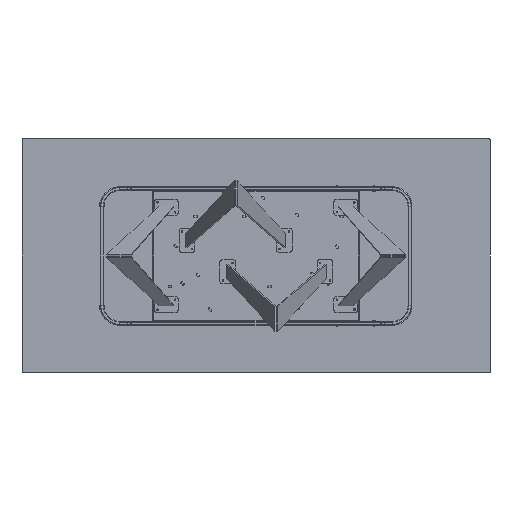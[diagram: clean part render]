
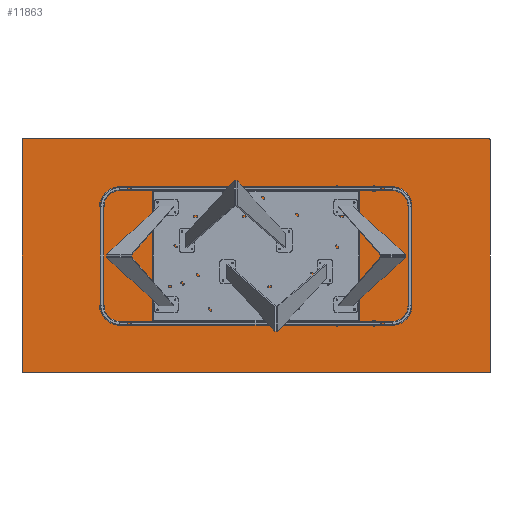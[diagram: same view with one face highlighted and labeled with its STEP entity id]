
A CAD part, front view. The second image highlights one B-rep face of the part: STEP entity #11863.
In plain terms, the highlighted planar face has unit normal (0, -1, 0).
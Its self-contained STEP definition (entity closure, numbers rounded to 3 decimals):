
#635 = CARTESIAN_POINT ( 'NONE',  ( -1200., 0., -595. ) ) ;
#771 = AXIS2_PLACEMENT_3D ( 'NONE', #8206, #1848, #14440 ) ;
#931 = ORIENTED_EDGE ( 'NONE', *, *, #15888, .F. ) ;
#1188 = CARTESIAN_POINT ( 'NONE',  ( 1200., 0., -595. ) ) ;
#1250 = DIRECTION ( 'NONE',  ( 0., -1., 0. ) ) ;
#1674 = ORIENTED_EDGE ( 'NONE', *, *, #13160, .F. ) ;
#1697 = ORIENTED_EDGE ( 'NONE', *, *, #16505, .F. ) ;
#1848 = DIRECTION ( 'NONE',  ( 0., -1., 0. ) ) ;
#2313 = EDGE_CURVE ( 'NONE', #4281, #13110, #16588, .T. ) ;
#2363 = VECTOR ( 'NONE', #4722, 1000. ) ;
#3006 = CARTESIAN_POINT ( 'NONE',  ( 0., 0., 0. ) ) ;
#3324 = VERTEX_POINT ( 'NONE', #8677 ) ;
#3383 = CARTESIAN_POINT ( 'NONE',  ( -1200., 0., 595. ) ) ;
#3811 = AXIS2_PLACEMENT_3D ( 'NONE', #3006, #8855, #7215 ) ;
#4281 = VERTEX_POINT ( 'NONE', #635 ) ;
#4381 = ORIENTED_EDGE ( 'NONE', *, *, #2313, .T. ) ;
#4722 = DIRECTION ( 'NONE',  ( 1., 0., 0. ) ) ;
#4966 = DIRECTION ( 'NONE',  ( 0., 0., 1. ) ) ;
#5014 = CIRCLE ( 'NONE', #8637, 5. ) ;
#5038 = ORIENTED_EDGE ( 'NONE', *, *, #14951, .T. ) ;
#5624 = CARTESIAN_POINT ( 'NONE',  ( -1195., 0., -600. ) ) ;
#5864 = CARTESIAN_POINT ( 'NONE',  ( -1200., 0., -600. ) ) ;
#6027 = VERTEX_POINT ( 'NONE', #3383 ) ;
#6441 = LINE ( 'NONE', #16161, #10238 ) ;
#6461 = DIRECTION ( 'NONE',  ( 0., 0., 1. ) ) ;
#6846 = VERTEX_POINT ( 'NONE', #12253 ) ;
#7215 = DIRECTION ( 'NONE',  ( 0., 0., 1. ) ) ;
#7288 = EDGE_CURVE ( 'NONE', #19939, #3324, #5014, .T. ) ;
#7340 = ORIENTED_EDGE ( 'NONE', *, *, #7485, .T. ) ;
#7485 = EDGE_CURVE ( 'NONE', #6846, #6027, #13198, .T. ) ;
#7596 = CARTESIAN_POINT ( 'NONE',  ( 1195., 0., 595. ) ) ;
#7699 = DIRECTION ( 'NONE',  ( 0., 0., 1. ) ) ;
#7753 = DIRECTION ( 'NONE',  ( 0., -1., 0. ) ) ;
#8206 = CARTESIAN_POINT ( 'NONE',  ( -1195., 0., 595. ) ) ;
#8637 = AXIS2_PLACEMENT_3D ( 'NONE', #7596, #1250, #7699 ) ;
#8677 = CARTESIAN_POINT ( 'NONE',  ( 1195., 0., 600. ) ) ;
#8855 = DIRECTION ( 'NONE',  ( 0., 1., 0. ) ) ;
#9159 = PLANE ( 'NONE',  #3811 ) ;
#9409 = DIRECTION ( 'NONE',  ( 0., 0., -1. ) ) ;
#10238 = VECTOR ( 'NONE', #11355, 1000. ) ;
#10356 = VECTOR ( 'NONE', #10383, 1000. ) ;
#10383 = DIRECTION ( 'NONE',  ( 0., 0., 1. ) ) ;
#11355 = DIRECTION ( 'NONE',  ( -1., 0., 0. ) ) ;
#11863 = ADVANCED_FACE ( 'NONE', ( #13854 ), #9159, .F. ) ;
#12253 = CARTESIAN_POINT ( 'NONE',  ( -1195., 0., 600. ) ) ;
#12497 = CARTESIAN_POINT ( 'NONE',  ( -1200., 0., 600. ) ) ;
#12593 = CARTESIAN_POINT ( 'NONE',  ( -1195., 0., -595. ) ) ;
#13110 = VERTEX_POINT ( 'NONE', #5624 ) ;
#13160 = EDGE_CURVE ( 'NONE', #19939, #13459, #15760, .T. ) ;
#13198 = CIRCLE ( 'NONE', #771, 5. ) ;
#13294 = AXIS2_PLACEMENT_3D ( 'NONE', #12593, #17330, #6461 ) ;
#13459 = VERTEX_POINT ( 'NONE', #1188 ) ;
#13746 = LINE ( 'NONE', #5864, #10356 ) ;
#13774 = ORIENTED_EDGE ( 'NONE', *, *, #7288, .T. ) ;
#13854 = FACE_OUTER_BOUND ( 'NONE', #16407, .T. ) ;
#14046 = LINE ( 'NONE', #12497, #2363 ) ;
#14440 = DIRECTION ( 'NONE',  ( 0., 0., 1. ) ) ;
#14760 = CARTESIAN_POINT ( 'NONE',  ( 1200., 0., 595. ) ) ;
#14831 = ORIENTED_EDGE ( 'NONE', *, *, #19644, .F. ) ;
#14951 = EDGE_CURVE ( 'NONE', #17063, #13459, #17304, .T. ) ;
#15563 = CARTESIAN_POINT ( 'NONE',  ( 1200., 0., -600. ) ) ;
#15760 = LINE ( 'NONE', #15563, #19907 ) ;
#15888 = EDGE_CURVE ( 'NONE', #6846, #3324, #14046, .T. ) ;
#16161 = CARTESIAN_POINT ( 'NONE',  ( -1200., 0., -600. ) ) ;
#16407 = EDGE_LOOP ( 'NONE', ( #1674, #13774, #931, #7340, #14831, #4381, #1697, #5038 ) ) ;
#16505 = EDGE_CURVE ( 'NONE', #17063, #13110, #6441, .T. ) ;
#16588 = CIRCLE ( 'NONE', #13294, 5. ) ;
#17063 = VERTEX_POINT ( 'NONE', #19342 ) ;
#17287 = CARTESIAN_POINT ( 'NONE',  ( 1195., 0., -595. ) ) ;
#17304 = CIRCLE ( 'NONE', #18285, 5. ) ;
#17330 = DIRECTION ( 'NONE',  ( 0., -1., 0. ) ) ;
#18285 = AXIS2_PLACEMENT_3D ( 'NONE', #17287, #7753, #4966 ) ;
#19342 = CARTESIAN_POINT ( 'NONE',  ( 1195., 0., -600. ) ) ;
#19644 = EDGE_CURVE ( 'NONE', #4281, #6027, #13746, .T. ) ;
#19907 = VECTOR ( 'NONE', #9409, 1000. ) ;
#19939 = VERTEX_POINT ( 'NONE', #14760 ) ;
